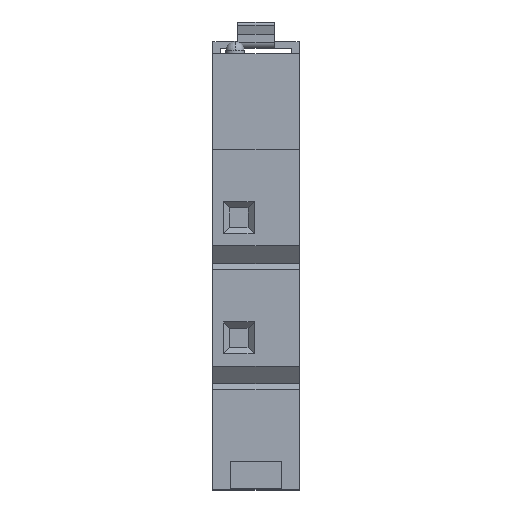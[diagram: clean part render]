
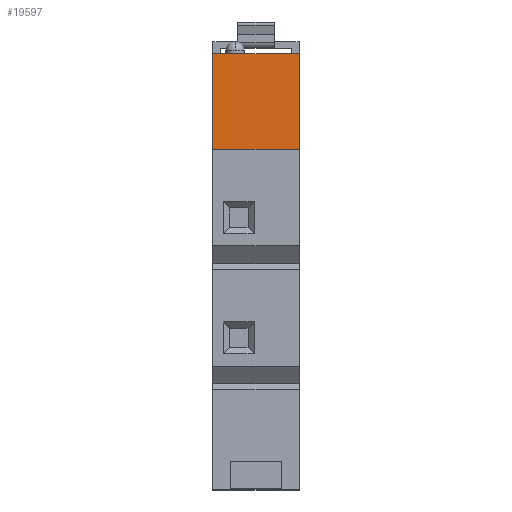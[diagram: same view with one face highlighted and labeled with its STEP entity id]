
A CAD part, front view. The second image highlights one B-rep face of the part: STEP entity #19597.
In plain terms, the highlighted planar face has unit normal (0, -1, 0).
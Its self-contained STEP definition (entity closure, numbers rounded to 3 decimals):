
#175 = VERTEX_POINT ( 'NONE', #19739 ) ;
#262 = VERTEX_POINT ( 'NONE', #5480 ) ;
#304 = CARTESIAN_POINT ( 'NONE',  ( 0., 21.25, 70.9 ) ) ;
#425 = CARTESIAN_POINT ( 'NONE',  ( 14., 21.25, 55.35 ) ) ;
#1011 = FACE_OUTER_BOUND ( 'NONE', #6484, .T. ) ;
#1287 = VECTOR ( 'NONE', #21035, 1000. ) ;
#1371 = DIRECTION ( 'NONE',  ( -1., 0., 0. ) ) ;
#2790 = DIRECTION ( 'NONE',  ( 0., 0., 1. ) ) ;
#2899 = VECTOR ( 'NONE', #2790, 1000. ) ;
#5480 = CARTESIAN_POINT ( 'NONE',  ( 0., 21.25, 55.35 ) ) ;
#5689 = CARTESIAN_POINT ( 'NONE',  ( 0., 21.25, 70.9 ) ) ;
#6484 = EDGE_LOOP ( 'NONE', ( #10099, #20177, #21543, #11063 ) ) ;
#8610 = EDGE_CURVE ( 'NONE', #262, #19432, #18722, .T. ) ;
#8663 = PLANE ( 'NONE',  #9956 ) ;
#9701 = CARTESIAN_POINT ( 'NONE',  ( 0., 21.25, 55.35 ) ) ;
#9956 = AXIS2_PLACEMENT_3D ( 'NONE', #18741, #16735, #1371 ) ;
#10099 = ORIENTED_EDGE ( 'NONE', *, *, #10215, .T. ) ;
#10152 = VERTEX_POINT ( 'NONE', #425 ) ;
#10215 = EDGE_CURVE ( 'NONE', #10152, #175, #10290, .T. ) ;
#10290 = LINE ( 'NONE', #23646, #2899 ) ;
#11063 = ORIENTED_EDGE ( 'NONE', *, *, #12748, .T. ) ;
#11543 = LINE ( 'NONE', #9701, #20164 ) ;
#12748 = EDGE_CURVE ( 'NONE', #262, #10152, #11543, .T. ) ;
#14796 = LINE ( 'NONE', #5689, #1287 ) ;
#14965 = CARTESIAN_POINT ( 'NONE',  ( 0., 21.25, 55.35 ) ) ;
#15541 = DIRECTION ( 'NONE',  ( 1., 0., 0. ) ) ;
#16735 = DIRECTION ( 'NONE',  ( 0., 1., 0. ) ) ;
#18722 = LINE ( 'NONE', #14965, #22138 ) ;
#18741 = CARTESIAN_POINT ( 'NONE',  ( 0., 21.25, 55.35 ) ) ;
#19432 = VERTEX_POINT ( 'NONE', #304 ) ;
#19597 = ADVANCED_FACE ( 'NONE', ( #1011 ), #8663, .F. ) ;
#19739 = CARTESIAN_POINT ( 'NONE',  ( 14., 21.25, 70.9 ) ) ;
#20164 = VECTOR ( 'NONE', #15541, 1000. ) ;
#20177 = ORIENTED_EDGE ( 'NONE', *, *, #23246, .F. ) ;
#21035 = DIRECTION ( 'NONE',  ( 1., 0., 0. ) ) ;
#21543 = ORIENTED_EDGE ( 'NONE', *, *, #8610, .F. ) ;
#22138 = VECTOR ( 'NONE', #23324, 1000. ) ;
#23246 = EDGE_CURVE ( 'NONE', #19432, #175, #14796, .T. ) ;
#23324 = DIRECTION ( 'NONE',  ( 0., 0., 1. ) ) ;
#23646 = CARTESIAN_POINT ( 'NONE',  ( 14., 21.25, 55.35 ) ) ;
